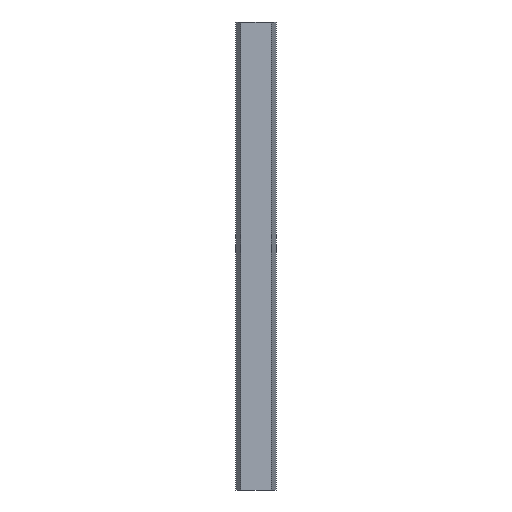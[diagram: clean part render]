
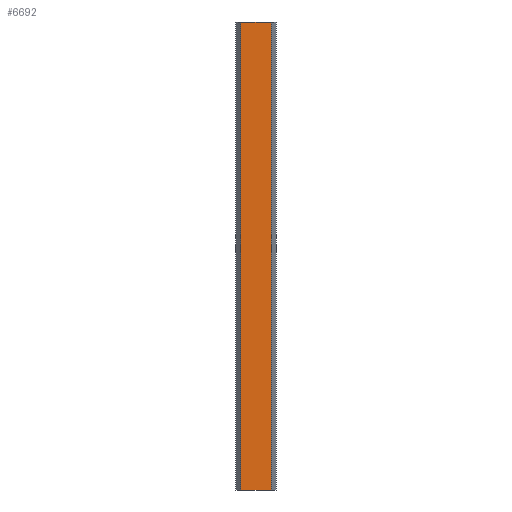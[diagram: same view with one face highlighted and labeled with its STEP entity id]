
A CAD part, left-side view. The second image highlights one B-rep face of the part: STEP entity #6692.
In plain terms, the highlighted planar face has unit normal (-1, 0, 0).
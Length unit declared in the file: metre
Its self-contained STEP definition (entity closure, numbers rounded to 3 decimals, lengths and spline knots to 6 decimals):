
#4792 = PLANE('',#4793);
#4793 = AXIS2_PLACEMENT_3D('',#4794,#4795,#4796);
#4794 = CARTESIAN_POINT('',(5.865748,0.,-9.256351));
#4795 = DIRECTION('',(-0.,-0.,-1.));
#4796 = DIRECTION('',(-1.,0.,0.));
#5028 = VERTEX_POINT('',#5029);
#5029 = CARTESIAN_POINT('',(3.328287,-0.586867,-9.256351));
#5043 = PLANE('',#5044);
#5044 = AXIS2_PLACEMENT_3D('',#5045,#5046,#5047);
#5045 = CARTESIAN_POINT('',(3.328287,-0.586867,-9.256351));
#5046 = DIRECTION('',(0.174,0.985,-0.));
#5047 = DIRECTION('',(0.985,-0.174,0.));
#5055 = EDGE_CURVE('',#5056,#5028,#5058,.T.);
#5056 = VERTEX_POINT('',#5057);
#5057 = CARTESIAN_POINT('',(3.328287,0.586867,-9.256351));
#5058 = SURFACE_CURVE('',#5059,(#5063,#5070),.PCURVE_S1.);
#5059 = LINE('',#5060,#5061);
#5060 = CARTESIAN_POINT('',(3.328287,0.586867,-9.256351));
#5061 = VECTOR('',#5062,1.);
#5062 = DIRECTION('',(0.,-1.,0.));
#5063 = PCURVE('',#4792,#5064);
#5064 = DEFINITIONAL_REPRESENTATION('',(#5065),#5069);
#5065 = LINE('',#5066,#5067);
#5066 = CARTESIAN_POINT('',(2.537,0.587));
#5067 = VECTOR('',#5068,1.);
#5068 = DIRECTION('',(0.,-1.));
#5069 = ( GEOMETRIC_REPRESENTATION_CONTEXT(2) 
PARAMETRIC_REPRESENTATION_CONTEXT() REPRESENTATION_CONTEXT('2D SPACE',''
  ) );
#5070 = PCURVE('',#5071,#5076);
#5071 = PLANE('',#5072);
#5072 = AXIS2_PLACEMENT_3D('',#5073,#5074,#5075);
#5073 = CARTESIAN_POINT('',(3.328287,0.586867,-9.256351));
#5074 = DIRECTION('',(1.,0.,-0.));
#5075 = DIRECTION('',(0.,-1.,0.));
#5076 = DEFINITIONAL_REPRESENTATION('',(#5077),#5081);
#5077 = LINE('',#5078,#5079);
#5078 = CARTESIAN_POINT('',(0.,0.));
#5079 = VECTOR('',#5080,1.);
#5080 = DIRECTION('',(1.,0.));
#5081 = ( GEOMETRIC_REPRESENTATION_CONTEXT(2) 
PARAMETRIC_REPRESENTATION_CONTEXT() REPRESENTATION_CONTEXT('2D SPACE',''
  ) );
#5099 = PLANE('',#5100);
#5100 = AXIS2_PLACEMENT_3D('',#5101,#5102,#5103);
#5101 = CARTESIAN_POINT('',(4.353067,0.767563,-9.256351));
#5102 = DIRECTION('',(0.174,-0.985,0.));
#5103 = DIRECTION('',(-0.985,-0.174,0.));
#5524 = PLANE('',#5525);
#5525 = AXIS2_PLACEMENT_3D('',#5526,#5527,#5528);
#5526 = CARTESIAN_POINT('',(5.845674,0.,
    8.606379));
#5527 = DIRECTION('',(0.,0.,1.));
#5528 = DIRECTION('',(1.,0.,-0.));
#6647 = EDGE_CURVE('',#5028,#6648,#6650,.T.);
#6648 = VERTEX_POINT('',#6649);
#6649 = CARTESIAN_POINT('',(3.328287,-0.586867,8.606379));
#6650 = SURFACE_CURVE('',#6651,(#6655,#6662),.PCURVE_S1.);
#6651 = LINE('',#6652,#6653);
#6652 = CARTESIAN_POINT('',(3.328287,-0.586867,-9.256351));
#6653 = VECTOR('',#6654,1.);
#6654 = DIRECTION('',(0.,0.,1.));
#6655 = PCURVE('',#5043,#6656);
#6656 = DEFINITIONAL_REPRESENTATION('',(#6657),#6661);
#6657 = LINE('',#6658,#6659);
#6658 = CARTESIAN_POINT('',(0.,0.));
#6659 = VECTOR('',#6660,1.);
#6660 = DIRECTION('',(0.,-1.));
#6661 = ( GEOMETRIC_REPRESENTATION_CONTEXT(2) 
PARAMETRIC_REPRESENTATION_CONTEXT() REPRESENTATION_CONTEXT('2D SPACE',''
  ) );
#6662 = PCURVE('',#5071,#6663);
#6663 = DEFINITIONAL_REPRESENTATION('',(#6664),#6668);
#6664 = LINE('',#6665,#6666);
#6665 = CARTESIAN_POINT('',(1.174,0.));
#6666 = VECTOR('',#6667,1.);
#6667 = DIRECTION('',(0.,-1.));
#6668 = ( GEOMETRIC_REPRESENTATION_CONTEXT(2) 
PARAMETRIC_REPRESENTATION_CONTEXT() REPRESENTATION_CONTEXT('2D SPACE',''
  ) );
#6692 = ADVANCED_FACE('',(#6693),#5071,.F.);
#6693 = FACE_BOUND('',#6694,.F.);
#6694 = EDGE_LOOP('',(#6695,#6718,#6739,#6740));
#6695 = ORIENTED_EDGE('',*,*,#6696,.T.);
#6696 = EDGE_CURVE('',#5056,#6697,#6699,.T.);
#6697 = VERTEX_POINT('',#6698);
#6698 = CARTESIAN_POINT('',(3.328287,0.586867,8.606379));
#6699 = SURFACE_CURVE('',#6700,(#6704,#6711),.PCURVE_S1.);
#6700 = LINE('',#6701,#6702);
#6701 = CARTESIAN_POINT('',(3.328287,0.586867,-9.256351));
#6702 = VECTOR('',#6703,1.);
#6703 = DIRECTION('',(0.,0.,1.));
#6704 = PCURVE('',#5071,#6705);
#6705 = DEFINITIONAL_REPRESENTATION('',(#6706),#6710);
#6706 = LINE('',#6707,#6708);
#6707 = CARTESIAN_POINT('',(0.,0.));
#6708 = VECTOR('',#6709,1.);
#6709 = DIRECTION('',(0.,-1.));
#6710 = ( GEOMETRIC_REPRESENTATION_CONTEXT(2) 
PARAMETRIC_REPRESENTATION_CONTEXT() REPRESENTATION_CONTEXT('2D SPACE',''
  ) );
#6711 = PCURVE('',#5099,#6712);
#6712 = DEFINITIONAL_REPRESENTATION('',(#6713),#6717);
#6713 = LINE('',#6714,#6715);
#6714 = CARTESIAN_POINT('',(1.041,0.));
#6715 = VECTOR('',#6716,1.);
#6716 = DIRECTION('',(0.,-1.));
#6717 = ( GEOMETRIC_REPRESENTATION_CONTEXT(2) 
PARAMETRIC_REPRESENTATION_CONTEXT() REPRESENTATION_CONTEXT('2D SPACE',''
  ) );
#6718 = ORIENTED_EDGE('',*,*,#6719,.T.);
#6719 = EDGE_CURVE('',#6697,#6648,#6720,.T.);
#6720 = SURFACE_CURVE('',#6721,(#6725,#6732),.PCURVE_S1.);
#6721 = LINE('',#6722,#6723);
#6722 = CARTESIAN_POINT('',(3.328287,0.586867,8.606379));
#6723 = VECTOR('',#6724,1.);
#6724 = DIRECTION('',(0.,-1.,0.));
#6725 = PCURVE('',#5071,#6726);
#6726 = DEFINITIONAL_REPRESENTATION('',(#6727),#6731);
#6727 = LINE('',#6728,#6729);
#6728 = CARTESIAN_POINT('',(0.,-17.863));
#6729 = VECTOR('',#6730,1.);
#6730 = DIRECTION('',(1.,0.));
#6731 = ( GEOMETRIC_REPRESENTATION_CONTEXT(2) 
PARAMETRIC_REPRESENTATION_CONTEXT() REPRESENTATION_CONTEXT('2D SPACE',''
  ) );
#6732 = PCURVE('',#5524,#6733);
#6733 = DEFINITIONAL_REPRESENTATION('',(#6734),#6738);
#6734 = LINE('',#6735,#6736);
#6735 = CARTESIAN_POINT('',(-2.517,0.587));
#6736 = VECTOR('',#6737,1.);
#6737 = DIRECTION('',(0.,-1.));
#6738 = ( GEOMETRIC_REPRESENTATION_CONTEXT(2) 
PARAMETRIC_REPRESENTATION_CONTEXT() REPRESENTATION_CONTEXT('2D SPACE',''
  ) );
#6739 = ORIENTED_EDGE('',*,*,#6647,.F.);
#6740 = ORIENTED_EDGE('',*,*,#5055,.F.);
